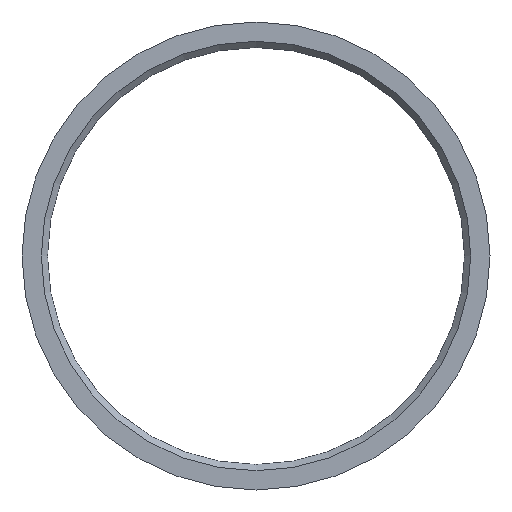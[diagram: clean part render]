
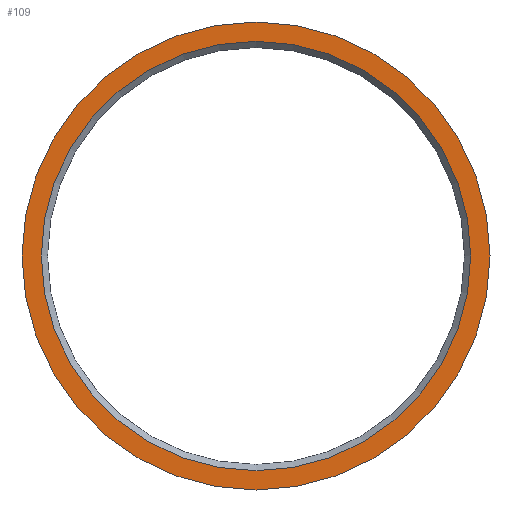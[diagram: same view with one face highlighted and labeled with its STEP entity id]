
A CAD part, front view. The second image highlights one B-rep face of the part: STEP entity #109.
In plain terms, the highlighted planar face has unit normal (0, -1, 0).
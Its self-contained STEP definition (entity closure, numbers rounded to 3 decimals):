
#16=FACE_BOUND('',#34,.T.);
#18=PLANE('',#144);
#25=FACE_OUTER_BOUND('',#33,.T.);
#33=EDGE_LOOP('',(#90));
#34=EDGE_LOOP('',(#91));
#51=CIRCLE('',#143,34.45);
#52=CIRCLE('',#145,37.55);
#59=VERTEX_POINT('',#202);
#60=VERTEX_POINT('',#206);
#70=EDGE_CURVE('',#59,#59,#51,.T.);
#71=EDGE_CURVE('',#60,#60,#52,.T.);
#90=ORIENTED_EDGE('',*,*,#71,.F.);
#91=ORIENTED_EDGE('',*,*,#70,.F.);
#109=ADVANCED_FACE('',(#25,#16),#18,.F.);
#143=AXIS2_PLACEMENT_3D('',#204,#171,#172);
#144=AXIS2_PLACEMENT_3D('',#205,#173,#174);
#145=AXIS2_PLACEMENT_3D('',#207,#175,#176);
#171=DIRECTION('center_axis',(0.,-1.,0.));
#172=DIRECTION('ref_axis',(1.,0.,0.));
#173=DIRECTION('center_axis',(0.,1.,0.));
#174=DIRECTION('ref_axis',(0.,0.,1.));
#175=DIRECTION('center_axis',(0.,1.,0.));
#176=DIRECTION('ref_axis',(-1.,0.,0.));
#202=CARTESIAN_POINT('',(-34.45,0.,0.));
#204=CARTESIAN_POINT('Origin',(0.,0.,0.));
#205=CARTESIAN_POINT('Origin',(0.,0.,0.));
#206=CARTESIAN_POINT('',(-37.55,0.,0.));
#207=CARTESIAN_POINT('Origin',(0.,0.,0.));
